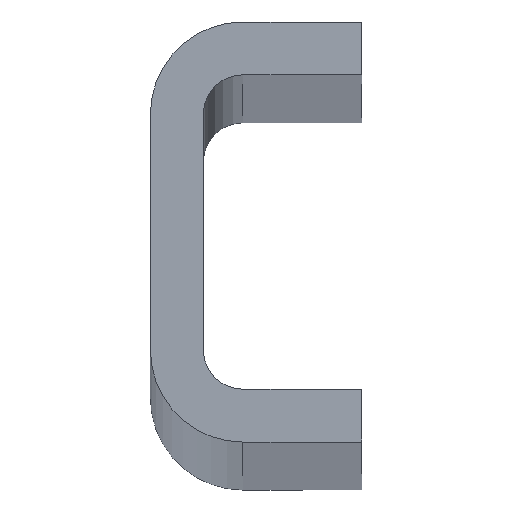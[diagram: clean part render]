
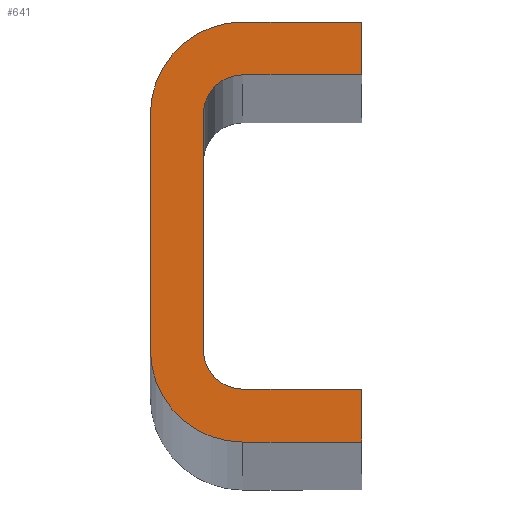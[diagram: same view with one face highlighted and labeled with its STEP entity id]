
A CAD part, top view. The second image highlights one B-rep face of the part: STEP entity #641.
In plain terms, the highlighted planar face has unit normal (0, 0, 1).
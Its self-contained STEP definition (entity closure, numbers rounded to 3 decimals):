
#28 = LINE ( 'NONE', #3222, #3361 ) ;
#34 = LINE ( 'NONE', #4658, #3784 ) ;
#90 = CARTESIAN_POINT ( 'NONE',  ( 7., 15.9, 0. ) ) ;
#114 = CARTESIAN_POINT ( 'NONE',  ( 0., 8.9, 0. ) ) ;
#204 = EDGE_CURVE ( 'NONE', #4115, #1950, #4297, .T. ) ;
#249 = VERTEX_POINT ( 'NONE', #3114 ) ;
#272 = VECTOR ( 'NONE', #3480, 1000. ) ;
#356 = AXIS2_PLACEMENT_3D ( 'NONE', #5024, #4663, #3422 ) ;
#387 = DIRECTION ( 'NONE',  ( 0., 1., 0. ) ) ;
#396 = ORIENTED_EDGE ( 'NONE', *, *, #3675, .T. ) ;
#444 = CARTESIAN_POINT ( 'NONE',  ( 0., -8.9, 0. ) ) ;
#460 = AXIS2_PLACEMENT_3D ( 'NONE', #2377, #1882, #792 ) ;
#582 = EDGE_CURVE ( 'NONE', #3262, #2642, #2664, .T. ) ;
#641 = ADVANCED_FACE ( 'NONE', ( #2310 ), #4163, .T. ) ;
#721 = DIRECTION ( 'NONE',  ( 0., 0., -1. ) ) ;
#781 = AXIS2_PLACEMENT_3D ( 'NONE', #844, #1284, #2812 ) ;
#792 = DIRECTION ( 'NONE',  ( -1., 0., 0. ) ) ;
#844 = CARTESIAN_POINT ( 'NONE',  ( 7., 8.9, 0. ) ) ;
#976 = ORIENTED_EDGE ( 'NONE', *, *, #2400, .T. ) ;
#1052 = CARTESIAN_POINT ( 'NONE',  ( 7., -8.9, 0. ) ) ;
#1147 = AXIS2_PLACEMENT_3D ( 'NONE', #3486, #2798, #2015 ) ;
#1153 = DIRECTION ( 'NONE',  ( 1., 0., 0. ) ) ;
#1284 = DIRECTION ( 'NONE',  ( 0., 0., 1. ) ) ;
#1300 = VERTEX_POINT ( 'NONE', #3808 ) ;
#1334 = EDGE_CURVE ( 'NONE', #249, #1300, #3955, .T. ) ;
#1362 = ORIENTED_EDGE ( 'NONE', *, *, #204, .T. ) ;
#1400 = LINE ( 'NONE', #4538, #2146 ) ;
#1420 = VECTOR ( 'NONE', #3850, 1000. ) ;
#1545 = CARTESIAN_POINT ( 'NONE',  ( 7., -15.9, 0. ) ) ;
#1572 = CARTESIAN_POINT ( 'NONE',  ( 16., -15.9, 0. ) ) ;
#1625 = VERTEX_POINT ( 'NONE', #3000 ) ;
#1654 = EDGE_CURVE ( 'NONE', #3840, #249, #1400, .T. ) ;
#1679 = ORIENTED_EDGE ( 'NONE', *, *, #4632, .T. ) ;
#1724 = ORIENTED_EDGE ( 'NONE', *, *, #5055, .T. ) ;
#1882 = DIRECTION ( 'NONE',  ( 0., 0., -1. ) ) ;
#1950 = VERTEX_POINT ( 'NONE', #1572 ) ;
#1997 = ORIENTED_EDGE ( 'NONE', *, *, #2248, .T. ) ;
#2015 = DIRECTION ( 'NONE',  ( 1., 0., 0. ) ) ;
#2146 = VECTOR ( 'NONE', #4976, 1000. ) ;
#2152 = ORIENTED_EDGE ( 'NONE', *, *, #1334, .T. ) ;
#2185 = EDGE_CURVE ( 'NONE', #2642, #1625, #2274, .T. ) ;
#2248 = EDGE_CURVE ( 'NONE', #1625, #4067, #28, .T. ) ;
#2250 = CARTESIAN_POINT ( 'NONE',  ( 16., 11.9, 0. ) ) ;
#2274 = LINE ( 'NONE', #2250, #1420 ) ;
#2298 = CARTESIAN_POINT ( 'NONE',  ( 4., -8.9, 0. ) ) ;
#2300 = ORIENTED_EDGE ( 'NONE', *, *, #2185, .T. ) ;
#2310 = FACE_OUTER_BOUND ( 'NONE', #2381, .T. ) ;
#2355 = DIRECTION ( 'NONE',  ( -1., 0., 0. ) ) ;
#2377 = CARTESIAN_POINT ( 'NONE',  ( 7., 8.9, 0. ) ) ;
#2381 = EDGE_LOOP ( 'NONE', ( #3502, #2300, #1997, #1724, #976, #3898, #1362, #1679, #3852, #2152, #2996, #396 ) ) ;
#2400 = EDGE_CURVE ( 'NONE', #4311, #3484, #4810, .T. ) ;
#2642 = VERTEX_POINT ( 'NONE', #3191 ) ;
#2664 = LINE ( 'NONE', #3450, #272 ) ;
#2685 = DIRECTION ( 'NONE',  ( -1., 0., 0. ) ) ;
#2798 = DIRECTION ( 'NONE',  ( 0., 0., 1. ) ) ;
#2812 = DIRECTION ( 'NONE',  ( 1., 0., 0. ) ) ;
#2889 = VECTOR ( 'NONE', #4449, 1000. ) ;
#2895 = VECTOR ( 'NONE', #3111, 1000. ) ;
#2996 = ORIENTED_EDGE ( 'NONE', *, *, #4900, .T. ) ;
#3000 = CARTESIAN_POINT ( 'NONE',  ( 16., 15.9, 0. ) ) ;
#3037 = EDGE_CURVE ( 'NONE', #3484, #4115, #4333, .T. ) ;
#3111 = DIRECTION ( 'NONE',  ( 0., 1., 0. ) ) ;
#3114 = CARTESIAN_POINT ( 'NONE',  ( 7., -11.9, 0. ) ) ;
#3191 = CARTESIAN_POINT ( 'NONE',  ( 16., 11.9, 0. ) ) ;
#3222 = CARTESIAN_POINT ( 'NONE',  ( 16., 15.9, 0. ) ) ;
#3253 = CARTESIAN_POINT ( 'NONE',  ( 7., 11.9, 0. ) ) ;
#3262 = VERTEX_POINT ( 'NONE', #3253 ) ;
#3361 = VECTOR ( 'NONE', #2355, 1000. ) ;
#3422 = DIRECTION ( 'NONE',  ( 1., 0., 0. ) ) ;
#3450 = CARTESIAN_POINT ( 'NONE',  ( 7., 11.9, 0. ) ) ;
#3480 = DIRECTION ( 'NONE',  ( 1., 0., 0. ) ) ;
#3484 = VERTEX_POINT ( 'NONE', #444 ) ;
#3486 = CARTESIAN_POINT ( 'NONE',  ( 7., -8.9, 0. ) ) ;
#3502 = ORIENTED_EDGE ( 'NONE', *, *, #582, .T. ) ;
#3529 = VECTOR ( 'NONE', #1153, 1000. ) ;
#3603 = VERTEX_POINT ( 'NONE', #4272 ) ;
#3675 = EDGE_CURVE ( 'NONE', #3603, #3262, #3791, .T. ) ;
#3784 = VECTOR ( 'NONE', #387, 1000. ) ;
#3791 = CIRCLE ( 'NONE', #460, 3. ) ;
#3808 = CARTESIAN_POINT ( 'NONE',  ( 4., -8.9, 0. ) ) ;
#3840 = VERTEX_POINT ( 'NONE', #4372 ) ;
#3850 = DIRECTION ( 'NONE',  ( 0., 1., 0. ) ) ;
#3852 = ORIENTED_EDGE ( 'NONE', *, *, #1654, .T. ) ;
#3898 = ORIENTED_EDGE ( 'NONE', *, *, #3037, .T. ) ;
#3932 = LINE ( 'NONE', #2298, #2895 ) ;
#3955 = CIRCLE ( 'NONE', #5014, 3. ) ;
#4067 = VERTEX_POINT ( 'NONE', #90 ) ;
#4115 = VERTEX_POINT ( 'NONE', #1545 ) ;
#4163 = PLANE ( 'NONE',  #356 ) ;
#4272 = CARTESIAN_POINT ( 'NONE',  ( 4., 8.9, 0. ) ) ;
#4297 = LINE ( 'NONE', #4736, #3529 ) ;
#4311 = VERTEX_POINT ( 'NONE', #114 ) ;
#4333 = CIRCLE ( 'NONE', #1147, 7. ) ;
#4372 = CARTESIAN_POINT ( 'NONE',  ( 16., -11.9, 0. ) ) ;
#4449 = DIRECTION ( 'NONE',  ( 0., -1., 0. ) ) ;
#4457 = CIRCLE ( 'NONE', #781, 7. ) ;
#4494 = CARTESIAN_POINT ( 'NONE',  ( 0., 8.9, 0. ) ) ;
#4538 = CARTESIAN_POINT ( 'NONE',  ( 16., -11.9, 0. ) ) ;
#4632 = EDGE_CURVE ( 'NONE', #1950, #3840, #34, .T. ) ;
#4658 = CARTESIAN_POINT ( 'NONE',  ( 16., -15.9, 0. ) ) ;
#4663 = DIRECTION ( 'NONE',  ( 0., 0., 1. ) ) ;
#4736 = CARTESIAN_POINT ( 'NONE',  ( 7., -15.9, 0. ) ) ;
#4810 = LINE ( 'NONE', #4494, #2889 ) ;
#4900 = EDGE_CURVE ( 'NONE', #1300, #3603, #3932, .T. ) ;
#4976 = DIRECTION ( 'NONE',  ( -1., 0., 0. ) ) ;
#5014 = AXIS2_PLACEMENT_3D ( 'NONE', #1052, #721, #2685 ) ;
#5024 = CARTESIAN_POINT ( 'NONE',  ( 7., 8.9, 0. ) ) ;
#5055 = EDGE_CURVE ( 'NONE', #4067, #4311, #4457, .T. ) ;
